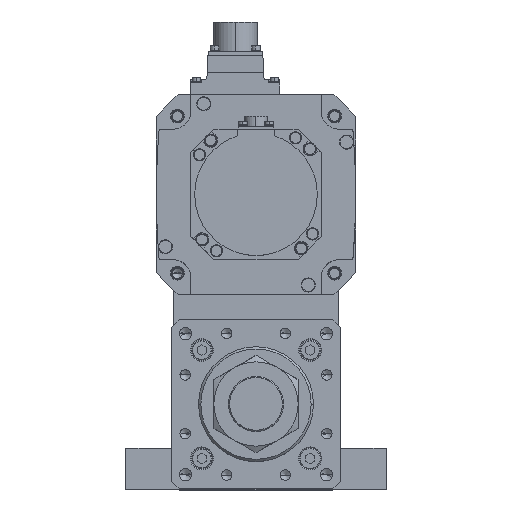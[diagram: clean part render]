
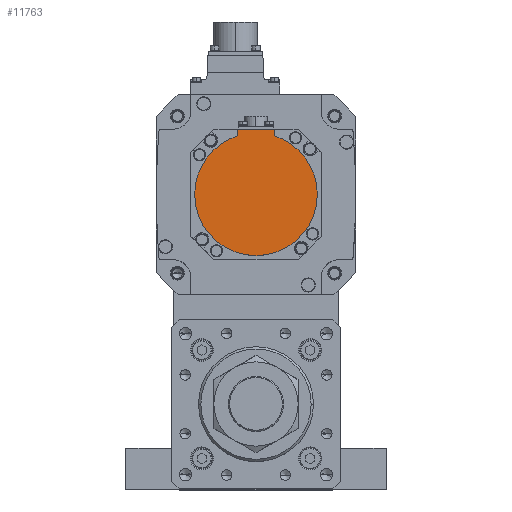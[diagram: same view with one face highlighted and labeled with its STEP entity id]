
A CAD part, top view. The second image highlights one B-rep face of the part: STEP entity #11763.
In plain terms, the highlighted planar face has unit normal (0, 0, 1) as drawn and (0, 0, -1) by its records, which use the part's own axes.
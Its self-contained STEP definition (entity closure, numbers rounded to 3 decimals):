
#920 = AXIS2_PLACEMENT_3D ( 'NONE', #25754, #31138, #14775 ) ;
#965 = ORIENTED_EDGE ( 'NONE', *, *, #25137, .T. ) ;
#980 = ORIENTED_EDGE ( 'NONE', *, *, #25823, .F. ) ;
#1461 = CARTESIAN_POINT ( 'NONE',  ( 40., 0., -132.5 ) ) ;
#1939 = DIRECTION ( 'NONE',  ( 1., 0., 0. ) ) ;
#2550 = EDGE_CURVE ( 'NONE', #12660, #10482, #27336, .T. ) ;
#3000 = DIRECTION ( 'NONE',  ( 1., 0., 0. ) ) ;
#3492 = VERTEX_POINT ( 'NONE', #6052 ) ;
#3883 = AXIS2_PLACEMENT_3D ( 'NONE', #6601, #23306, #15215 ) ;
#3925 = FACE_OUTER_BOUND ( 'NONE', #13331, .T. ) ;
#4133 = VECTOR ( 'NONE', #14903, 1000. ) ;
#5198 = ORIENTED_EDGE ( 'NONE', *, *, #9968, .T. ) ;
#5515 = CARTESIAN_POINT ( 'NONE',  ( -12., -42.5, -132.5 ) ) ;
#6052 = CARTESIAN_POINT ( 'NONE',  ( 12., -42.5, -132.5 ) ) ;
#6416 = CARTESIAN_POINT ( 'NONE',  ( 0., -42.5, -132.5 ) ) ;
#6601 = CARTESIAN_POINT ( 'NONE',  ( 0., -1.249, -132.5 ) ) ;
#8132 = CARTESIAN_POINT ( 'NONE',  ( 12., -38.158, -132.5 ) ) ;
#8274 = EDGE_CURVE ( 'NONE', #3492, #17069, #25970, .T. ) ;
#9968 = EDGE_CURVE ( 'NONE', #34470, #10482, #15624, .T. ) ;
#10482 = VERTEX_POINT ( 'NONE', #22786 ) ;
#10947 = ORIENTED_EDGE ( 'NONE', *, *, #26083, .F. ) ;
#11264 = AXIS2_PLACEMENT_3D ( 'NONE', #16619, #25241, #3000 ) ;
#11456 = CIRCLE ( 'NONE', #16035, 40. ) ;
#11763 = ADVANCED_FACE ( 'NONE', ( #3925 ), #12129, .F. ) ;
#12129 = PLANE ( 'NONE',  #3883 ) ;
#12660 = VERTEX_POINT ( 'NONE', #21669 ) ;
#13331 = EDGE_LOOP ( 'NONE', ( #5198, #22857, #980, #10947, #17577, #965 ) ) ;
#14775 = DIRECTION ( 'NONE',  ( 1., 0., 0. ) ) ;
#14903 = DIRECTION ( 'NONE',  ( 0., 1., 0. ) ) ;
#15215 = DIRECTION ( 'NONE',  ( 1., 0., 0. ) ) ;
#15624 = LINE ( 'NONE', #17595, #33166 ) ;
#16035 = AXIS2_PLACEMENT_3D ( 'NONE', #32325, #32203, #1939 ) ;
#16619 = CARTESIAN_POINT ( 'NONE',  ( 0., 0., -132.5 ) ) ;
#17069 = VERTEX_POINT ( 'NONE', #8132 ) ;
#17376 = DIRECTION ( 'NONE',  ( 0., 1., 0. ) ) ;
#17577 = ORIENTED_EDGE ( 'NONE', *, *, #8274, .F. ) ;
#17595 = CARTESIAN_POINT ( 'NONE',  ( -12., -40.329, -132.5 ) ) ;
#19962 = CIRCLE ( 'NONE', #11264, 40. ) ;
#20877 = LINE ( 'NONE', #6416, #27320 ) ;
#21669 = CARTESIAN_POINT ( 'NONE',  ( -40., 0., -132.5 ) ) ;
#22786 = CARTESIAN_POINT ( 'NONE',  ( -12., -38.158, -132.5 ) ) ;
#22857 = ORIENTED_EDGE ( 'NONE', *, *, #2550, .F. ) ;
#23306 = DIRECTION ( 'NONE',  ( 0., 0., 1. ) ) ;
#25137 = EDGE_CURVE ( 'NONE', #3492, #34470, #20877, .T. ) ;
#25241 = DIRECTION ( 'NONE',  ( 0., 0., 1. ) ) ;
#25663 = DIRECTION ( 'NONE',  ( -1., 0., 0. ) ) ;
#25754 = CARTESIAN_POINT ( 'NONE',  ( 0., 0., -132.5 ) ) ;
#25823 = EDGE_CURVE ( 'NONE', #30638, #12660, #11456, .T. ) ;
#25970 = LINE ( 'NONE', #33693, #4133 ) ;
#26083 = EDGE_CURVE ( 'NONE', #17069, #30638, #19962, .T. ) ;
#27320 = VECTOR ( 'NONE', #25663, 1000. ) ;
#27336 = CIRCLE ( 'NONE', #920, 40. ) ;
#30638 = VERTEX_POINT ( 'NONE', #1461 ) ;
#31138 = DIRECTION ( 'NONE',  ( 0., 0., 1. ) ) ;
#32203 = DIRECTION ( 'NONE',  ( 0., 0., 1. ) ) ;
#32325 = CARTESIAN_POINT ( 'NONE',  ( 0., 0., -132.5 ) ) ;
#33166 = VECTOR ( 'NONE', #17376, 1000. ) ;
#33693 = CARTESIAN_POINT ( 'NONE',  ( 12., -1.249, -132.5 ) ) ;
#34470 = VERTEX_POINT ( 'NONE', #5515 ) ;
